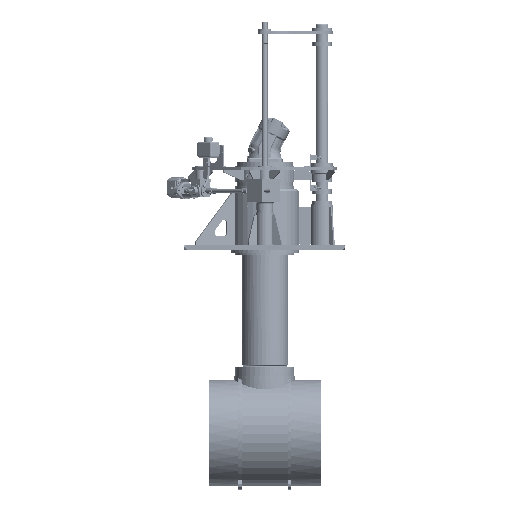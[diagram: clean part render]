
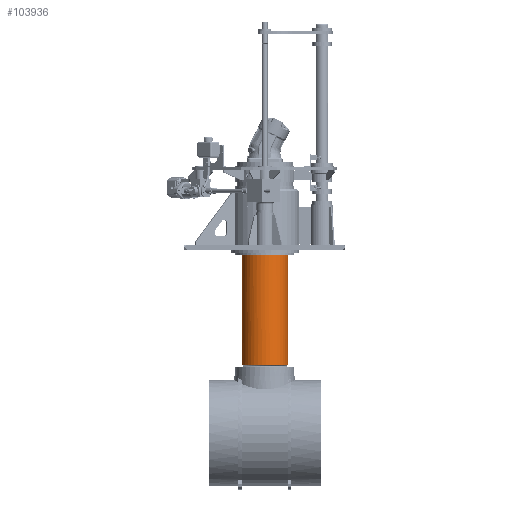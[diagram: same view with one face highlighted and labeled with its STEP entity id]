
A CAD part, front view. The second image highlights one B-rep face of the part: STEP entity #103936.
In plain terms, the highlighted cylindrical face has radius 160 mm (diameter 320 mm), a full revolution.
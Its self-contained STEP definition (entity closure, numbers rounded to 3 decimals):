
#6112=CYLINDRICAL_SURFACE('',#112229,160.);
#10775=LINE('',#188810,#17484);
#17484=VECTOR('',#131397,160.);
#24092=FACE_OUTER_BOUND('',#30414,.T.);
#30414=EDGE_LOOP('',(#79201,#79202,#79203,#79204,#79205,#79206));
#35609=CIRCLE('',#111092,160.);
#35610=CIRCLE('',#111093,160.);
#36243=CIRCLE('',#112203,160.);
#36244=CIRCLE('',#112204,160.);
#42866=VERTEX_POINT('',#182317);
#42867=VERTEX_POINT('',#182319);
#43800=VERTEX_POINT('',#188752);
#43801=VERTEX_POINT('',#188754);
#54890=EDGE_CURVE('',#42866,#42867,#35609,.T.);
#54891=EDGE_CURVE('',#42867,#42866,#35610,.T.);
#56269=EDGE_CURVE('',#43800,#43801,#36243,.T.);
#56270=EDGE_CURVE('',#43801,#43800,#36244,.T.);
#56297=EDGE_CURVE('',#42867,#43801,#10775,.T.);
#79201=ORIENTED_EDGE('',*,*,#54891,.F.);
#79202=ORIENTED_EDGE('',*,*,#56297,.T.);
#79203=ORIENTED_EDGE('',*,*,#56269,.F.);
#79204=ORIENTED_EDGE('',*,*,#56270,.F.);
#79205=ORIENTED_EDGE('',*,*,#56297,.F.);
#79206=ORIENTED_EDGE('',*,*,#54890,.F.);
#103936=ADVANCED_FACE('',(#24092),#6112,.T.);
#111092=AXIS2_PLACEMENT_3D('',#182320,#128711,#128712);
#111093=AXIS2_PLACEMENT_3D('',#182321,#128713,#128714);
#112203=AXIS2_PLACEMENT_3D('',#188755,#131334,#131335);
#112204=AXIS2_PLACEMENT_3D('',#188756,#131336,#131337);
#112229=AXIS2_PLACEMENT_3D('',#188809,#131395,#131396);
#128711=DIRECTION('center_axis',(0.,0.,
1.));
#128712=DIRECTION('ref_axis',(0.,1.,0.));
#128713=DIRECTION('center_axis',(0.,0.,
1.));
#128714=DIRECTION('ref_axis',(0.,1.,0.));
#131334=DIRECTION('center_axis',(0.,0.,
-1.));
#131335=DIRECTION('ref_axis',(0.,-1.,0.));
#131336=DIRECTION('center_axis',(0.,0.,
-1.));
#131337=DIRECTION('ref_axis',(0.,-1.,0.));
#131395=DIRECTION('center_axis',(0.,0.,
1.));
#131396=DIRECTION('ref_axis',(0.,-1.,0.));
#131397=DIRECTION('',(0.,0.,-1.));
#182317=CARTESIAN_POINT('',(0.,-160.,-48.));
#182319=CARTESIAN_POINT('',(0.,160.,-48.));
#182320=CARTESIAN_POINT('Origin',(0.,0.,
-48.));
#182321=CARTESIAN_POINT('Origin',(0.,0.,
-48.));
#188752=CARTESIAN_POINT('',(-133.409,-88.33,-804.917));
#188754=CARTESIAN_POINT('',(0.,160.,-804.917));
#188755=CARTESIAN_POINT('Origin',(0.,0.,
-804.917));
#188756=CARTESIAN_POINT('Origin',(0.,0.,
-804.917));
#188809=CARTESIAN_POINT('Origin',(0.,0.,
-842.));
#188810=CARTESIAN_POINT('',(0.,160.,-842.));
